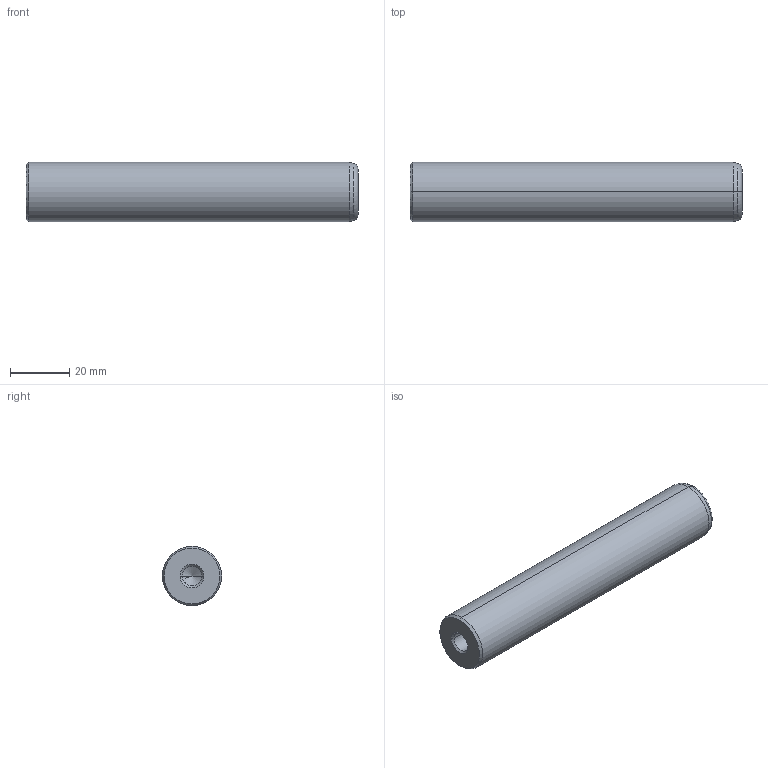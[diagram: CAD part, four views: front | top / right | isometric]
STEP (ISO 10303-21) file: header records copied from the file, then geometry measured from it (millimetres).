
FILE_DESCRIPTION(('CATIA V5 STEP Exchange'),'2;1');
FILE_NAME('C:\Users\Utente\Desktop\IO LAVORO\3D X SITO CF\X SITO\720\720-20x112.stp','2021-01-01T13:02:14+00:00',('none'),('none'),'CATIA Version 5 Release 20 GA (IN-10)','CATIA V5 STEP AP203','none');
FILE_SCHEMA(('CONFIG_CONTROL_DESIGN'));
Length unit declared in the file: millimetre
Products named in the file (1): 720-20x112
Bounding box: 112 x 20 x 20 mm (x, y, z)
Volume: 33348.7 mm3; surface area: 8558.7 mm2
Topology: 1 solids, 1 shells, 22 faces, 62 edges, 40 vertices
Faces by surface type: cone 12, cylinder 6, plane 2, torus 2
Entity records: 800 total; most frequent: CARTESIAN_POINT 223, ORIENTED_EDGE 116, DIRECTION 93, EDGE_CURVE 58, AXIS2_PLACEMENT_3D 54, VERTEX_POINT 40, CIRCLE 31, EDGE_LOOP 24
